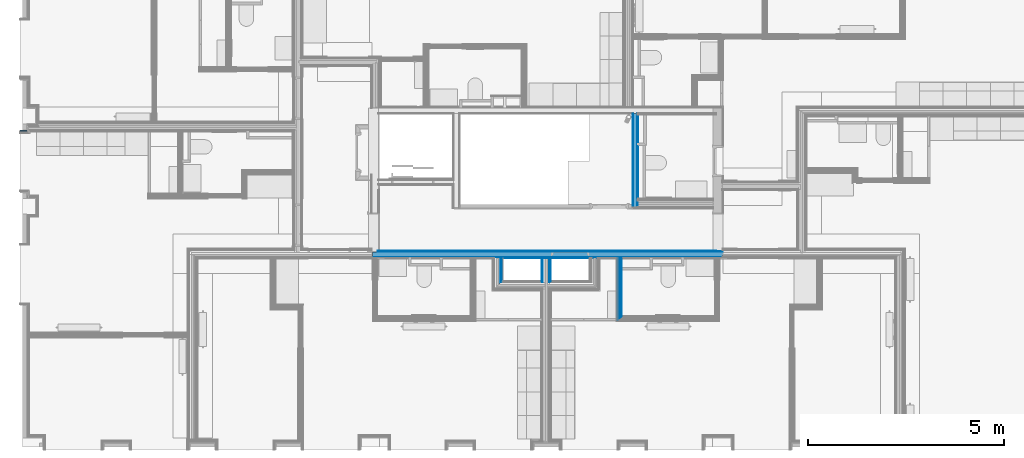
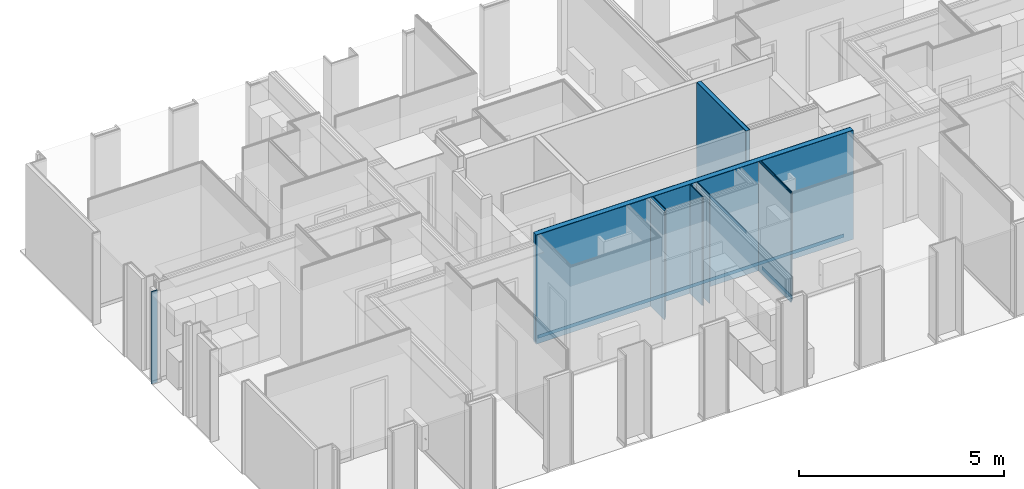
# One storey, part 15 of 65: 21 building element parts, 6 elements without a shape of their own.
"""IFC2X3 building model written with IfcOpenShell, lengths in metres."""

from ifc_helpers import new_model, entity, si_unit, converted_unit, derived_unit, money_unit, direction, frame, frame_2d, origin_with_axes, place, context, subcontext, project, spatial, polyline, rectangle, outline, extrude, material, type_object, element, aggregate, save


model = new_model("IFC2X3")

# Units and contexts
model_context = context("Model", 3, precision=1e-05, world=origin_with_axes(), true_north=direction((0.0, 1.0)))
body_context = subcontext(model_context, "Body", "Model", "MODEL_VIEW", scale=1.0)
ifc_project = project(units=[si_unit("LENGTHUNIT", "METRE"), si_unit("AREAUNIT", "SQUARE_METRE"), si_unit("VOLUMEUNIT", "CUBIC_METRE"), si_unit("ABSORBEDDOSEUNIT", "GRAY"), si_unit("AMOUNTOFSUBSTANCEUNIT", "MOLE"), si_unit("DOSEEQUIVALENTUNIT", "SIEVERT"), si_unit("ELECTRICCAPACITANCEUNIT", "FARAD"), si_unit("ELECTRICCHARGEUNIT", "COULOMB"), si_unit("ELECTRICCONDUCTANCEUNIT", "SIEMENS"), si_unit("ELECTRICCURRENTUNIT", "AMPERE"), si_unit("ELECTRICRESISTANCEUNIT", "OHM"), si_unit("ELECTRICVOLTAGEUNIT", "VOLT"), si_unit("ENERGYUNIT", "JOULE"), si_unit("FORCEUNIT", "NEWTON"), si_unit("FREQUENCYUNIT", "HERTZ"), si_unit("ILLUMINANCEUNIT", "LUX"), si_unit("INDUCTANCEUNIT", "HENRY"), si_unit("LUMINOUSFLUXUNIT", "LUMEN"), si_unit("LUMINOUSINTENSITYUNIT", "CANDELA"), si_unit("MAGNETICFLUXDENSITYUNIT", "TESLA"), si_unit("MAGNETICFLUXUNIT", "WEBER"), si_unit("MASSUNIT", "GRAM"), converted_unit("PLANEANGLEUNIT", "degree", entity("IfcReal", 0.0174532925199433), si_unit("PLANEANGLEUNIT", "RADIAN"), dimensions=[0, 0, 0, 0, 0, 0, 0]), si_unit("POWERUNIT", "WATT"), si_unit("PRESSUREUNIT", "PASCAL"), si_unit("RADIOACTIVITYUNIT", "BECQUEREL"), si_unit("SOLIDANGLEUNIT", "STERADIAN"), si_unit("THERMODYNAMICTEMPERATUREUNIT", "KELVIN"), si_unit("TIMEUNIT", "SECOND"), derived_unit("ACCELERATIONUNIT", [(si_unit("LENGTHUNIT", "METRE"), 1), (si_unit("TIMEUNIT", "SECOND"), -2)]), derived_unit("ANGULARVELOCITYUNIT", [(converted_unit("PLANEANGLEUNIT", "degree", entity("IfcReal", 0.0174532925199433), si_unit("PLANEANGLEUNIT", "RADIAN"), dimensions=[0, 0, 0, 0, 0, 0, 0]), 1), (si_unit("TIMEUNIT", "SECOND"), -1)]), derived_unit("CURVATUREUNIT", [(converted_unit("PLANEANGLEUNIT", "degree", entity("IfcReal", 0.0174532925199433), si_unit("PLANEANGLEUNIT", "RADIAN"), dimensions=[0, 0, 0, 0, 0, 0, 0]), 1), (si_unit("LENGTHUNIT", "METRE"), -1)]), derived_unit("DYNAMICVISCOSITYUNIT", [(si_unit("PRESSUREUNIT", "PASCAL"), 1), (si_unit("TIMEUNIT", "SECOND"), 1)]), derived_unit("HEATFLUXDENSITYUNIT", [(si_unit("POWERUNIT", "WATT"), 1), (si_unit("LENGTHUNIT", "METRE"), -2)]), derived_unit("HEATINGVALUEUNIT", [(si_unit("ENERGYUNIT", "JOULE"), 1), (si_unit("MASSUNIT", "GRAM"), -1)]), derived_unit("INTEGERCOUNTRATEUNIT", [(si_unit("TIMEUNIT", "SECOND"), -1)]), derived_unit("IONCONCENTRATIONUNIT", [(si_unit("MASSUNIT", "GRAM"), 1), (si_unit("VOLUMEUNIT", "CUBIC_METRE"), -1)]), derived_unit("ISOTHERMALMOISTURECAPACITYUNIT", [(si_unit("VOLUMEUNIT", "CUBIC_METRE"), 1), (si_unit("MASSUNIT", "GRAM"), -1)]), derived_unit("KINEMATICVISCOSITYUNIT", [(si_unit("AREAUNIT", "SQUARE_METRE"), 1), (si_unit("TIMEUNIT", "SECOND"), -1)]), derived_unit("LINEARFORCEUNIT", [(si_unit("FORCEUNIT", "NEWTON"), 1), (si_unit("LENGTHUNIT", "METRE"), -1)]), derived_unit("LINEARMOMENTUNIT", [(si_unit("FORCEUNIT", "NEWTON"), 1), (si_unit("LENGTHUNIT", "METRE"), -1)]), derived_unit("LINEARSTIFFNESSUNIT", [(si_unit("FORCEUNIT", "NEWTON"), 1), (si_unit("LENGTHUNIT", "METRE"), -1)]), derived_unit("LINEARVELOCITYUNIT", [(si_unit("LENGTHUNIT", "METRE"), 1), (si_unit("TIMEUNIT", "SECOND"), -1)]), derived_unit("LUMINOUSINTENSITYDISTRIBUTIONUNIT", [(si_unit("LUMINOUSINTENSITYUNIT", "CANDELA"), 1), (si_unit("LUMINOUSFLUXUNIT", "LUMEN"), -1)]), derived_unit("MASSDENSITYUNIT", [(si_unit("MASSUNIT", "GRAM"), 1), (si_unit("VOLUMEUNIT", "CUBIC_METRE"), -1)]), derived_unit("MASSFLOWRATEUNIT", [(si_unit("MASSUNIT", "GRAM"), 1), (si_unit("TIMEUNIT", "SECOND"), -1)]), derived_unit("MASSPERLENGTHUNIT", [(si_unit("MASSUNIT", "GRAM"), 1), (si_unit("LENGTHUNIT", "METRE"), -1)]), derived_unit("MODULUSOFELASTICITYUNIT", [(si_unit("FORCEUNIT", "NEWTON"), 1), (si_unit("AREAUNIT", "SQUARE_METRE"), -1)]), derived_unit("MODULUSOFLINEARSUBGRADEREACTIONUNIT", [(si_unit("FORCEUNIT", "NEWTON"), 1), (si_unit("LENGTHUNIT", "METRE"), -2)]), derived_unit("MODULUSOFROTATIONALSUBGRADEREACTIONUNIT", [(si_unit("FORCEUNIT", "NEWTON"), 1), (si_unit("LENGTHUNIT", "METRE"), 1)]), derived_unit("MODULUSOFSUBGRADEREACTIONUNIT", [(si_unit("FORCEUNIT", "NEWTON"), 1), (si_unit("VOLUMEUNIT", "CUBIC_METRE"), -1)]), derived_unit("MOISTUREDIFFUSIVITYUNIT", [(si_unit("VOLUMEUNIT", "CUBIC_METRE"), 1), (si_unit("TIMEUNIT", "SECOND"), -1)]), derived_unit("MOLECULARWEIGHTUNIT", [(si_unit("MASSUNIT", "GRAM"), 1), (si_unit("AMOUNTOFSUBSTANCEUNIT", "MOLE"), -1)]), derived_unit("PLANARFORCEUNIT", [(si_unit("FORCEUNIT", "NEWTON"), 1), (si_unit("LENGTHUNIT", "METRE"), -2)]), derived_unit("ROTATIONALFREQUENCYUNIT", [(si_unit("TIMEUNIT", "SECOND"), -1)]), derived_unit("ROTATIONALMASSUNIT", [(si_unit("MASSUNIT", "GRAM"), 1), (si_unit("LENGTHUNIT", "METRE"), 2)]), derived_unit("ROTATIONALSTIFFNESSUNIT", [(si_unit("FORCEUNIT", "NEWTON"), 1), (si_unit("LENGTHUNIT", "METRE"), 1), (converted_unit("PLANEANGLEUNIT", "degree", entity("IfcReal", 0.0174532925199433), si_unit("PLANEANGLEUNIT", "RADIAN"), dimensions=[0, 0, 0, 0, 0, 0, 0]), -1)]), derived_unit("SECTIONAREAINTEGRALUNIT", [(si_unit("LENGTHUNIT", "METRE"), 5)]), derived_unit("SECTIONMODULUSUNIT", [(si_unit("LENGTHUNIT", "METRE"), 3)]), derived_unit("SHEARMODULUSUNIT", [(si_unit("FORCEUNIT", "NEWTON"), 1), (si_unit("AREAUNIT", "SQUARE_METRE"), -1)]), derived_unit("SOUNDPOWERUNIT", [(si_unit("ENERGYUNIT", "JOULE"), 1), (si_unit("TIMEUNIT", "SECOND"), -1)]), derived_unit("SPECIFICHEATCAPACITYUNIT", [(si_unit("FORCEUNIT", "NEWTON"), 1), (si_unit("MASSUNIT", "GRAM"), -1), (si_unit("THERMODYNAMICTEMPERATUREUNIT", "KELVIN"), -1)]), derived_unit("TEMPERATUREGRADIENTUNIT", [(si_unit("THERMODYNAMICTEMPERATUREUNIT", "KELVIN"), 1), (si_unit("LENGTHUNIT", "METRE"), -1)]), derived_unit("THERMALADMITTANCEUNIT", [(si_unit("POWERUNIT", "WATT"), 1), (si_unit("AREAUNIT", "SQUARE_METRE"), -1), (si_unit("THERMODYNAMICTEMPERATUREUNIT", "KELVIN"), -1)]), derived_unit("THERMALCONDUCTANCEUNIT", [(si_unit("POWERUNIT", "WATT"), 1), (si_unit("LENGTHUNIT", "METRE"), -1), (si_unit("THERMODYNAMICTEMPERATUREUNIT", "KELVIN"), -1)]), derived_unit("THERMALEXPANSIONCOEFFICIENTUNIT", [(si_unit("THERMODYNAMICTEMPERATUREUNIT", "KELVIN"), -1)]), derived_unit("THERMALRESISTANCEUNIT", [(si_unit("AREAUNIT", "SQUARE_METRE"), 1), (si_unit("POWERUNIT", "WATT"), -1)]), derived_unit("THERMALTRANSMITTANCEUNIT", [(si_unit("POWERUNIT", "WATT"), 1), (si_unit("AREAUNIT", "SQUARE_METRE"), -1), (si_unit("THERMODYNAMICTEMPERATUREUNIT", "KELVIN"), -1)]), derived_unit("TORQUEUNIT", [(si_unit("FORCEUNIT", "NEWTON"), 1), (si_unit("LENGTHUNIT", "METRE"), 1)]), derived_unit("VAPORPERMEABILITYUNIT", [(si_unit("MASSUNIT", "GRAM"), 1), (si_unit("TIMEUNIT", "SECOND"), -1)]), derived_unit("VOLUMETRICFLOWRATEUNIT", [(si_unit("VOLUMEUNIT", "CUBIC_METRE"), 1), (si_unit("TIMEUNIT", "SECOND"), -1)]), derived_unit("WARPINGCONSTANTUNIT", [(si_unit("LENGTHUNIT", "METRE"), 6)]), derived_unit("WARPINGMOMENTUNIT", [(si_unit("FORCEUNIT", "NEWTON"), 1), (si_unit("LENGTHUNIT", "METRE"), 2)]), money_unit("GBP")], contexts=[model_context])

# Site, building, storey
site_placement = place(None, origin_with_axes())
site = spatial("IfcSite", under=ifc_project, at=site_placement, Name="Site", CompositionType="ELEMENT")
building_placement = place(site_placement, origin_with_axes())
building = spatial("IfcBuilding", under=site, at=building_placement, Name="Building01", CompositionType="ELEMENT")
storey_placement = place(building_placement, frame((0.0, 0.0, 8.64), z_axis=(0.0, 0.0, 1.0), x_axis=(1.0, 0.0, 0.0)))
storey = spatial("IfcBuildingStorey", under=building, at=storey_placement, Name="2F", CompositionType="ELEMENT", Elevation=8.64)

# Wall, building element parts
wall_type_1 = type_object("IfcWallType", Name="SHE_A-Walls_Type01c_Partywall_225mm_twin_tall", PredefinedType="NOTDEFINED")
wall_1_placement = place(storey_placement, frame((13.5005, 4.995, 0.0), z_axis=(0.0, 0.0, 1.0), x_axis=(0.0, -1.0, 0.0)))
wall_1 = element("IfcWall", 1, at=wall_1_placement, inside=storey, type_object=wall_type_1, Name="1C", ObjectType="SHE_A-Walls_Type01c_Partywall_225mm_twin_tall")
ifc_material_1 = material(Name="A_BSUK_WallInternal_Finishes_Plasterboard")
placement_1 = place(wall_1_placement, origin_with_axes())
building_element_part_1 = element("IfcBuildingElementPart", 2, at=placement_1, material=ifc_material_1, Name="2", context=body_context, shape_type="SweptSolid", body=[
    extrude(rectangle(XDim=0.590572, YDim=0.015, at=frame_2d((0.310286, -0.1055), x_axis=(-1.0, 0.0))), origin_with_axes(), (0.0, 0.0, 1.0), 3.24),
])
building_element_part_2 = element("IfcBuildingElementPart", 3, at=placement_1, material=ifc_material_1, Name="4", context=body_context, shape_type="SweptSolid", body=[
    extrude(rectangle(XDim=0.620572, YDim=0.015, at=frame_2d((0.325286, -0.0905), x_axis=(-1.0, 0.0))), origin_with_axes(), (0.0, 0.0, 1.0), 3.24),
])
building_element_part_3 = element("IfcBuildingElementPart", 4, at=placement_1, material=ifc_material_1, Name="9", context=body_context, shape_type="SweptSolid", body=[
    extrude(rectangle(XDim=0.620572, YDim=0.015, at=frame_2d((0.325286, 0.0895), x_axis=(-1.0, 0.0))), origin_with_axes(), (0.0, 0.0, 1.0), 3.24),
])
building_element_part_4 = element("IfcBuildingElementPart", 5, at=placement_1, material=ifc_material_1, Name="11", context=body_context, shape_type="SweptSolid", body=[
    extrude(rectangle(XDim=0.590572, YDim=0.015, at=frame_2d((0.310286, 0.1045), x_axis=(-1.0, 0.0))), origin_with_axes(), (0.0, 0.0, 1.0), 3.24),
])
aggregate(wall_1, [building_element_part_1, building_element_part_2, building_element_part_3, building_element_part_4])

wall_2_placement = place(storey_placement, frame((12.288, 4.98, 0.0), z_axis=(0.0, 0.0, 1.0), x_axis=(0.0, -1.0, 0.0)))
wall_2 = element("IfcWall", 6, at=wall_2_placement, inside=storey, type_object=wall_type_1, Name="1C", ObjectType="SHE_A-Walls_Type01c_Partywall_225mm_twin_tall")
ifc_material_2 = material(Name="Air Cavity")
placement_2 = place(wall_2_placement, origin_with_axes())
building_element_part_5 = element("IfcBuildingElementPart", 7, at=placement_2, material=ifc_material_2, Name="7", context=body_context, shape_type="SweptSolid", body=[
    extrude(outline(polyline([(0.620572, 0.057), (0.0, 0.057), (0.0, 0.0), (0.677572, 0.0), (0.620572, 0.057)])), origin_with_axes(), (0.0, 0.0, 1.0), 3.24),
])
building_element_part_6 = element("IfcBuildingElementPart", 8, at=placement_2, material=ifc_material_1, Name="8", context=body_context, shape_type="SweptSolid", body=[
    extrude(outline(polyline([(0.605572, 0.072), (0.0, 0.072), (0.0, 0.057), (0.620572, 0.057), (0.605572, 0.072)])), origin_with_axes(), (0.0, 0.0, 1.0), 3.24),
])
building_element_part_7 = element("IfcBuildingElementPart", 9, at=placement_2, material=ifc_material_1, Name="9", context=body_context, shape_type="SweptSolid", body=[
    extrude(outline(polyline([(0.590572, 0.087), (0.0, 0.087), (0.0, 0.072), (0.605572, 0.072), (0.590572, 0.087)])), origin_with_axes(), (0.0, 0.0, 1.0), 3.24),
])
aggregate(wall_2, [building_element_part_5, building_element_part_6, building_element_part_7])

wall_type_2 = type_object("IfcWallType", Name="SHE_A-Walls_Type04a_BlockworkWall_130mm", PredefinedType="NOTDEFINED")
wall_3_placement = place(storey_placement, frame((15.715, 8.665, 0.0), z_axis=(0.0, 0.0, 1.0), x_axis=(0.0, -1.0, 0.0)))
wall_3 = element("IfcWall", 10, at=wall_3_placement, inside=storey, type_object=wall_type_2, Name="4A", ObjectType="SHE_A-Walls_Type04a_BlockworkWall_130mm")
placement_3 = place(wall_3_placement, origin_with_axes())
building_element_part_8 = element("IfcBuildingElementPart", 11, at=placement_3, material=ifc_material_1, Name="2", context=body_context, shape_type="SweptSolid", body=[
    extrude(rectangle(XDim=2.385, YDim=0.015, at=frame_2d((1.2075, -0.0075), x_axis=(-1.0, 0.0))), origin_with_axes(), (0.0, 0.0, 1.0), 3.24),
])
ifc_material_3 = material(Name="A_BSUK_WallsInternal_Block")
building_element_part_9 = element("IfcBuildingElementPart", 12, at=placement_3, material=ifc_material_3, Name="3", context=body_context, shape_type="SweptSolid", body=[
    extrude(rectangle(XDim=0.1, YDim=2.4, at=frame_2d((1.2, 0.05), x_axis=(0.0, -1.0))), origin_with_axes(), (0.0, 0.0, 1.0), 3.24),
])
ifc_material_4 = material(Name="A_BSUK_WallInternal_Finishes_Plaster")
building_element_part_10 = element("IfcBuildingElementPart", 13, at=placement_3, material=ifc_material_4, Name="4", context=body_context, shape_type="SweptSolid", body=[
    extrude(rectangle(XDim=0.015, YDim=2.4, at=frame_2d((1.2, 0.1075), x_axis=(0.0, -1.0))), origin_with_axes(), (0.0, 0.0, 1.0), 3.24),
])
ifc_material_5 = material(Name="A_BSUK_Walls_Timber")
building_element_part_11 = element("IfcBuildingElementPart", 14, at=placement_3, material=ifc_material_5, Name="5", context=body_context, shape_type="SweptSolid", body=[
    extrude(outline(polyline([(2.19, 0.13), (0.03, 0.13), (0.03, 0.115), (2.205, 0.115), (2.19, 0.13)])), frame((0.0, 0.0, 0.015), z_axis=(0.0, 0.0, 1.0), x_axis=(1.0, 0.0, 0.0)), (0.0, 0.0, 1.0), 0.1),
])
aggregate(wall_3, [building_element_part_8, building_element_part_9, building_element_part_10, building_element_part_11])

wall_type_3 = type_object("IfcWallType", Name="SHE_A-Walls_Type05a_Partition_95mm_tall", PredefinedType="NOTDEFINED")
wall_4_placement = place(storey_placement, frame((15.3475, 3.42, 0.0), z_axis=(0.0, 0.0, 1.0), x_axis=(0.0, 1.0, 0.0)))
wall_4 = element("IfcWall", 15, at=wall_4_placement, inside=storey, type_object=wall_type_3, Name="5A", ObjectType="SHE_A-Walls_Type05a_Partition_95mm_tall")
placement_4 = place(wall_4_placement, origin_with_axes())
building_element_part_12 = element("IfcBuildingElementPart", 16, at=placement_4, material=ifc_material_5, Name="1", context=body_context, shape_type="SweptSolid", body=[
    extrude(outline(polyline([(1.545, -0.06), (0.06, -0.06), (0.075, -0.075), (1.545, -0.075), (1.545, -0.06)])), frame((0.0, 0.0, 0.015), z_axis=(0.0, 0.0, 1.0), x_axis=(1.0, 0.0, 0.0)), (0.0, 0.0, 1.0), 0.1),
])
building_element_part_13 = element("IfcBuildingElementPart", 17, at=placement_4, material=ifc_material_1, Name="2", context=body_context, shape_type="SweptSolid", body=[
    extrude(outline(polyline([(1.56, -0.048), (0.048, -0.048), (0.06, -0.06), (1.56, -0.06), (1.56, -0.048)])), origin_with_axes(), (0.0, 0.0, 1.0), 3.24),
])
building_element_part_14 = element("IfcBuildingElementPart", 18, at=placement_4, material=ifc_material_2, Name="3", context=body_context, shape_type="SweptSolid", body=[
    extrude(outline(polyline([(1.56, -0.025), (0.025, -0.025), (0.048, -0.048), (1.56, -0.048), (1.56, -0.025)])), origin_with_axes(), (0.0, 0.0, 1.0), 3.24),
])
ifc_material_6 = material(Name="A_BSUK_Insulation")
building_element_part_15 = element("IfcBuildingElementPart", 19, at=placement_4, material=ifc_material_6, Name="4", context=body_context, shape_type="SweptSolid", body=[
    extrude(outline(polyline([(1.56, 0.0), (0.0, 0.0), (0.025, -0.025), (1.56, -0.025), (1.56, 0.0)])), origin_with_axes(), (0.0, 0.0, 1.0), 3.24),
])
building_element_part_16 = element("IfcBuildingElementPart", 20, at=placement_4, material=ifc_material_2, Name="5", context=body_context, shape_type="SweptSolid", body=[
    extrude(outline(polyline([(1.56, 0.023), (-0.023, 0.023), (0.0, 0.0), (1.56, 0.0), (1.56, 0.023)])), origin_with_axes(), (0.0, 0.0, 1.0), 3.24),
])
aggregate(wall_4, [building_element_part_12, building_element_part_13, building_element_part_14, building_element_part_15, building_element_part_16])

wall_type_4 = type_object("IfcWallType", Name="SHE_A-Walls_Type03a_BlockworkWall_170mm", PredefinedType="NOTDEFINED")
wall_5_placement = place(storey_placement, frame((9.075, 4.995, 0.0), z_axis=(0.0, 0.0, 1.0), x_axis=(1.0, 0.0, 0.0)))
wall_5 = element("IfcWall", 21, at=wall_5_placement, inside=storey, type_object=wall_type_4, Name="4B", ObjectType="SHE_A-Walls_Type03a_BlockworkWall_170mm")
placement_5 = place(wall_5_placement, origin_with_axes())
building_element_part_17 = element("IfcBuildingElementPart", 22, at=placement_5, material=ifc_material_1, Name="7", context=body_context, shape_type="SweptSolid", body=[
    extrude(rectangle(XDim=0.015, YDim=8.94, at=frame_2d((4.455, -0.0075), x_axis=(0.0, -1.0))), origin_with_axes(), (0.0, 0.0, 1.0), 3.24),
])
building_element_part_18 = element("IfcBuildingElementPart", 23, at=placement_5, material=ifc_material_3, Name="8", context=body_context, shape_type="SweptSolid", body=[
    extrude(rectangle(XDim=0.14, YDim=8.925, at=frame_2d((4.4625, 0.07), x_axis=(0.0, -1.0))), origin_with_axes(), (0.0, 0.0, 1.0), 3.24),
])
building_element_part_19 = element("IfcBuildingElementPart", 24, at=placement_5, material=ifc_material_4, Name="9", context=body_context, shape_type="SweptSolid", body=[
    extrude(rectangle(XDim=0.015, YDim=8.785, at=frame_2d((4.5325, 0.1475), x_axis=(0.0, -1.0))), origin_with_axes(), (0.0, 0.0, 1.0), 3.24),
])
building_element_part_20 = element("IfcBuildingElementPart", 25, at=placement_5, material=ifc_material_5, Name="10", context=body_context, shape_type="SweptSolid", body=[
    extrude(rectangle(XDim=8.615, YDim=0.015, at=frame_2d((4.4475, 0.1625), x_axis=(-1.0, 0.0))), frame((0.0, 0.0, 0.015), z_axis=(0.0, 0.0, 1.0), x_axis=(1.0, 0.0, 0.0)), (0.0, 0.0, 1.0), 0.1),
])
aggregate(wall_5, [building_element_part_17, building_element_part_18, building_element_part_19, building_element_part_20])

# Wall, building element part
wall_type_5 = type_object("IfcWallType", Name="SHE_A-Walls_Type06f_ExternalWallInsulation_48+15mm", PredefinedType="NOTDEFINED")
wall_6_placement = place(storey_placement, frame((0.27, 8.233, 0.0), z_axis=(0.0, 0.0, 1.0), x_axis=(-1.0, 0.0, 0.0)))
wall_6 = element("IfcWall", 26, at=wall_6_placement, inside=storey, type_object=wall_type_5, Name="6F", ObjectType="SHE_A-Walls_Type06f_ExternalWallInsulation_48+15mm")
building_element_part_21_placement = place(wall_6_placement, origin_with_axes())
building_element_part_21 = element("IfcBuildingElementPart", 27, at=building_element_part_21_placement, material=ifc_material_6, Name="1", context=body_context, shape_type="SweptSolid", body=[
    extrude(rectangle(XDim=0.17, YDim=0.036, at=frame_2d((0.085, 0.018), x_axis=(-1.0, 0.0))), origin_with_axes(), (0.0, 0.0, 1.0), 2.74),
])
aggregate(wall_6, [building_element_part_21])

save(model, "model.ifc")
